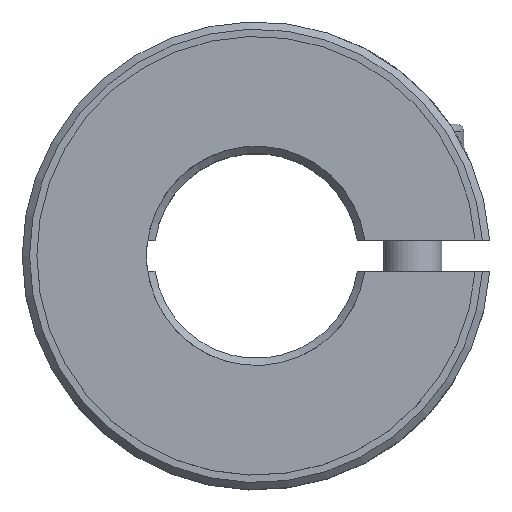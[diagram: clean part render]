
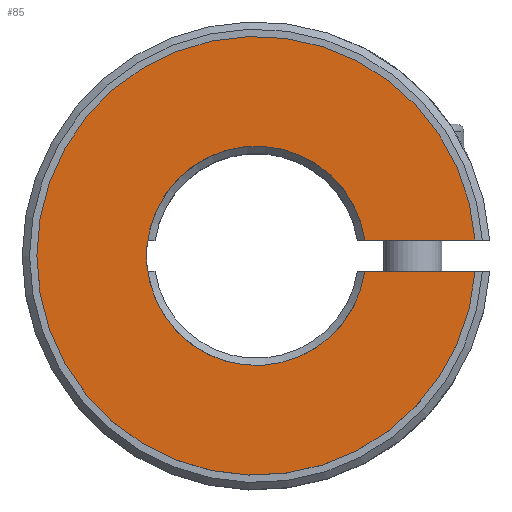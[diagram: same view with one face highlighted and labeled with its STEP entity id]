
A CAD part, top view. The second image highlights one B-rep face of the part: STEP entity #85.
In plain terms, the highlighted planar face has unit normal (0, 0, 1).
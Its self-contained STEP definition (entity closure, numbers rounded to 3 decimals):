
#85 = ADVANCED_FACE( '', ( #138 ), #139, .T. );
#138 = FACE_OUTER_BOUND( '', #232, .T. );
#139 = PLANE( '', #233 );
#232 = EDGE_LOOP( '', ( #384, #385, #386, #387 ) );
#233 = AXIS2_PLACEMENT_3D( '', #388, #389, #390 );
#384 = ORIENTED_EDGE( '', *, *, #632, .F. );
#385 = ORIENTED_EDGE( '', *, *, #638, .T. );
#386 = ORIENTED_EDGE( '', *, *, #634, .T. );
#387 = ORIENTED_EDGE( '', *, *, #639, .T. );
#388 = CARTESIAN_POINT( '', ( 0., 15., 7.5 ) );
#389 = DIRECTION( '', ( 0., 0., 1. ) );
#390 = DIRECTION( '', ( 1., 0., 0. ) );
#632 = EDGE_CURVE( '', #747, #749, #750, .T. );
#634 = EDGE_CURVE( '', #752, #753, #754, .T. );
#638 = EDGE_CURVE( '', #747, #752, #758, .T. );
#639 = EDGE_CURVE( '', #753, #749, #759, .T. );
#747 = VERTEX_POINT( '', #1004 );
#749 = VERTEX_POINT( '', #1007 );
#750 = CIRCLE( '', #1008, 15. );
#752 = VERTEX_POINT( '', #1011 );
#753 = VERTEX_POINT( '', #1012 );
#754 = CIRCLE( '', #1013, 7.5 );
#758 = LINE( '', #1019, #1020 );
#759 = LINE( '', #1021, #1022 );
#1004 = CARTESIAN_POINT( '', ( 14.961, -1.08, 7.5 ) );
#1007 = CARTESIAN_POINT( '', ( 14.961, 1.08, 7.5 ) );
#1008 = AXIS2_PLACEMENT_3D( '', #1224, #1225, #1226 );
#1011 = CARTESIAN_POINT( '', ( 7.422, -1.08, 7.5 ) );
#1012 = CARTESIAN_POINT( '', ( 7.422, 1.08, 7.5 ) );
#1013 = AXIS2_PLACEMENT_3D( '', #1228, #1229, #1230 );
#1019 = CARTESIAN_POINT( '', ( 0., -1.08, 7.5 ) );
#1020 = VECTOR( '', #1236, 1000. );
#1021 = CARTESIAN_POINT( '', ( 0., 1.08, 7.5 ) );
#1022 = VECTOR( '', #1237, 1000. );
#1224 = CARTESIAN_POINT( '', ( 0., 0., 7.5 ) );
#1225 = DIRECTION( '', ( 0., 0., -1. ) );
#1226 = DIRECTION( '', ( -1., 0., 0. ) );
#1228 = CARTESIAN_POINT( '', ( 0., 0., 7.5 ) );
#1229 = DIRECTION( '', ( 0., 0., -1. ) );
#1230 = DIRECTION( '', ( -1., 0., 0. ) );
#1236 = DIRECTION( '', ( -1., 0., 0. ) );
#1237 = DIRECTION( '', ( 1., 0., 0. ) );
